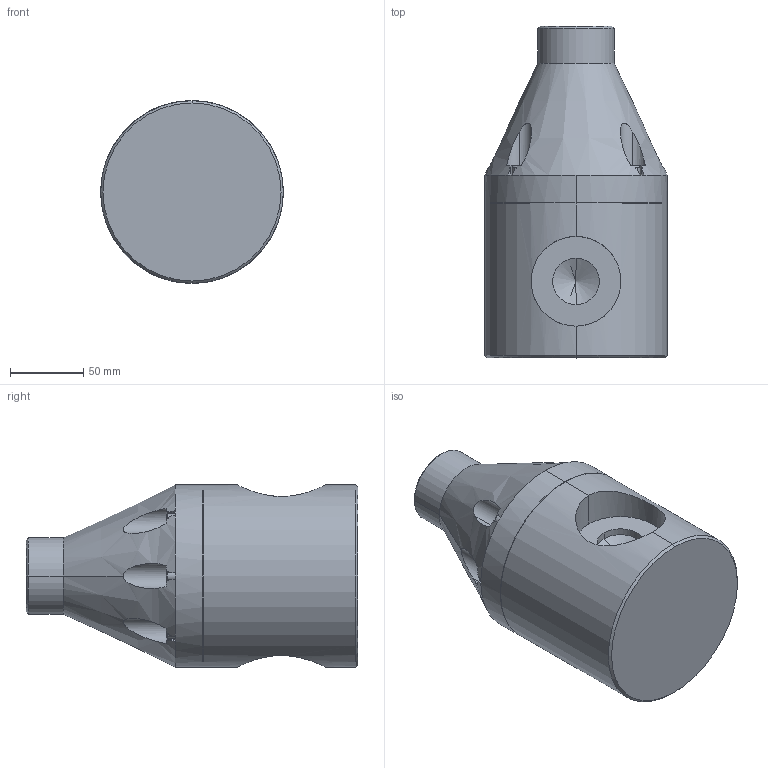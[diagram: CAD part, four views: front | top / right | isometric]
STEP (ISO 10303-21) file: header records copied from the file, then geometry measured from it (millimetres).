
FILE_DESCRIPTION (( 'STEP AP203' ), '1' );
FILE_NAME ('GBP2000-SOC.STEP', '2015-04-27T10:10:05', ( 'Dan Bernard' ), ( '' ), 'SwSTEP 2.0', 'SolidWorks 2008', '' );
FILE_SCHEMA (( 'CONFIG_CONTROL_DESIGN' ));
Length unit declared in the file: inch
Products named in the file (1): GBP2000-SOC
Bounding box: 124.46 x 226.06 x 124.46 mm (x, y, z)
Volume: 1899776 mm3; surface area: 115543 mm2
Topology: 1 solids, 1 shells, 197 faces, 492 edges, 312 vertices
Faces by surface type: plane 125, cylinder 46, cone 26
Entity records: 6535 total; most frequent: CARTESIAN_POINT 1780, ORIENTED_EDGE 976, DIRECTION 950, EDGE_CURVE 488, AXIS2_PLACEMENT_3D 318, VECTOR 314, LINE 314, VERTEX_POINT 312
